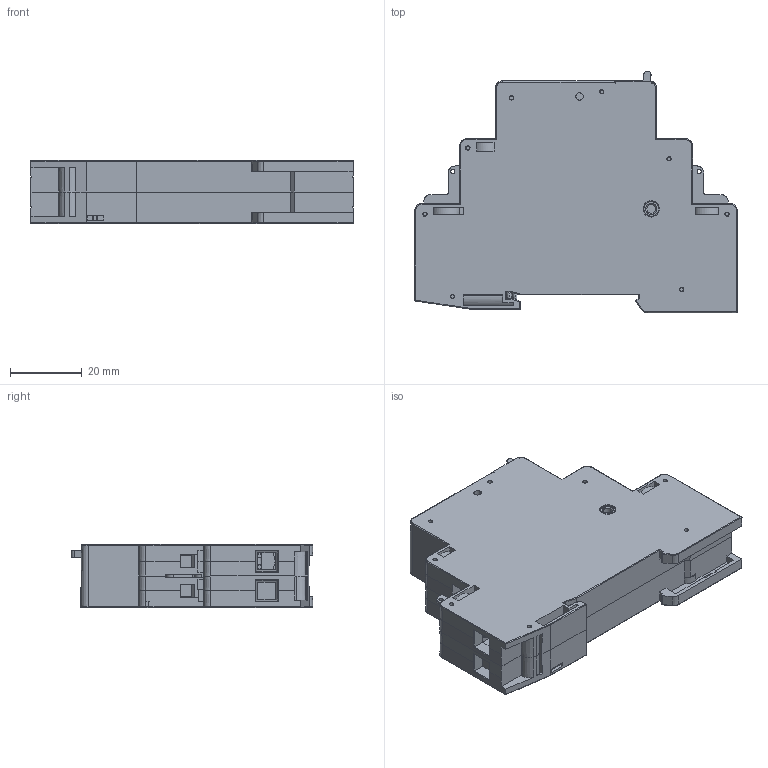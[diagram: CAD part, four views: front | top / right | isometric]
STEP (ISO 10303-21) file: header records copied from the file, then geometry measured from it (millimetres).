
FILE_DESCRIPTION (( 'STEP AP214' ), '1' );
FILE_NAME ('MIG-20-10-A230_upr2.step', '2014-08-28T07:34:31', ( '' ), ( '' ), 'SwSTEP 2.0', 'SolidWorks 2011', '' );
FILE_SCHEMA (( 'AUTOMOTIVE_DESIGN' ));
Length unit declared in the file: millimetre
Products named in the file (1): MIG-20-10-A230_upr2
Bounding box: 90 x 67.45 x 17.6 mm (x, y, z)
Volume: 73695 mm3; surface area: 17980 mm2
Topology: 1 solids, 1 shells, 1457 faces, 3965 edges, 2554 vertices
Faces by surface type: plane 722, cylinder 355, bspline 130, cone 129, torus 118, sphere 3
Entity records: 84950 total; most frequent: CARTESIAN_POINT 35369, ORIENTED_EDGE 7910, DIRECTION 5504, EDGE_CURVE 3955, VERTEX_POINT 2554, LINE 2090, VECTOR 2090, AXIS2_PLACEMENT_3D 1707
